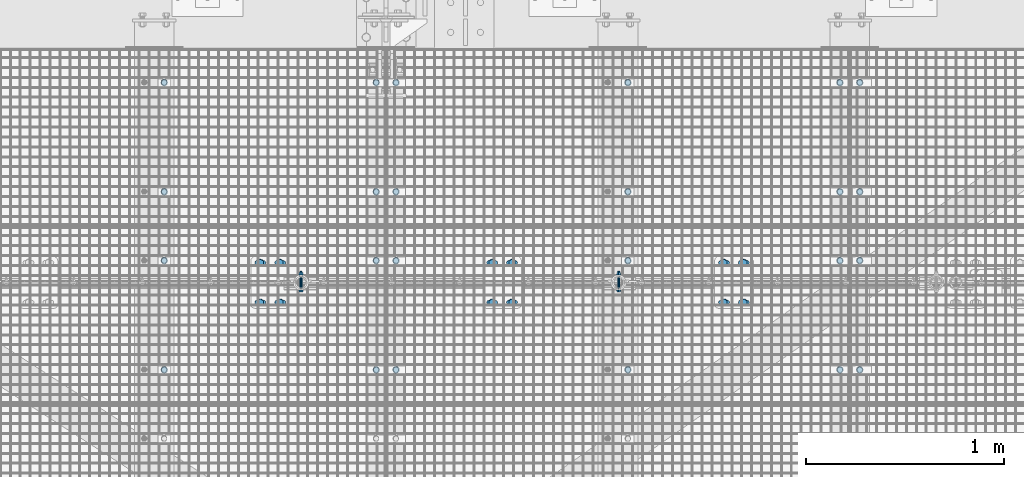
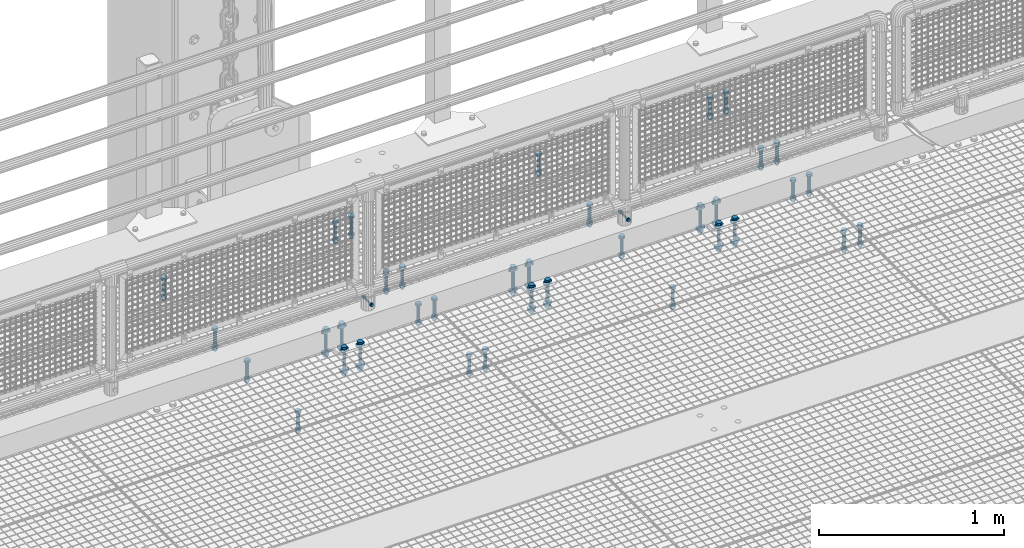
# One storey, part 44 of 1530: 17 mechanical fasteners.
"""IFC2X3 building model written with IfcOpenShell, lengths in millimetres."""

import ifcopenshell
import ifcopenshell.guid

model = None  # the IFC model being written
_history = None  # IfcOwnerHistory: only IFC2X3 demands one
_inside = {}  # id of a spatial element -> (the spatial element, [elements in it])
_under = {}  # id of a project, library or spatial element -> (it, [spatial elements below it])
_declared = {}  # id of a project -> (the project, [libraries it declares])
_typed = {}  # id of a type object -> (the type object, [elements of that type])
_made_of = {}  # id of a material, layer set ... -> (it, [elements and type objects made of it])


def new_model(schema):
    """Start an empty IFC model of exactly this schema.

    Asked for "IFC4X3", IfcOpenShell would pick the latest addendum, in which some entities
    have other attributes; the version numbers below select the first issue.
    IFC2X3 requires an IfcOwnerHistory on every rooted entity: one is made here for all.
    """
    global model, _history
    if schema == "IFC4X3":
        model = ifcopenshell.file(schema_version=(4, 3, 0, 0))
    else:
        model = ifcopenshell.file(schema=schema)
    _inside.clear()
    _under.clear()
    _declared.clear()
    _typed.clear()
    _made_of.clear()
    _history = None
    if model.schema == "IFC2X3":
        org = make("IfcOrganization", Name="unknown")
        user = make(
            "IfcPersonAndOrganization",
            ThePerson=make("IfcPerson", FamilyName="unknown"),
            TheOrganization=org,
        )
        app = make(
            "IfcApplication",
            ApplicationDeveloper=org,
            Version="unknown",
            ApplicationFullName="unknown",
            ApplicationIdentifier="unknown",
        )
        _history = make(
            "IfcOwnerHistory",
            OwningUser=user,
            OwningApplication=app,
            ChangeAction="ADDED",
            CreationDate=0,
        )
    return model


def make(cls, **values):
    """One entity of the class cls with the attributes given. An attribute that is None is left unset."""
    return model.create_entity(
        cls, **{name: value for name, value in values.items() if value is not None}
    )


def rooted(cls, **values):
    """An entity with a GlobalId (a new one), such as an element, a storey or a relation."""
    return make(cls, GlobalId=ifcopenshell.guid.new(), OwnerHistory=_history, **values)


def si_unit(unit_type, name, prefix=None):
    """IfcSIUnit, for example si_unit("LENGTHUNIT", "METRE", prefix="MILLI")."""
    return make("IfcSIUnit", UnitType=unit_type, Prefix=prefix, Name=name)


def assignment(units):
    """IfcUnitAssignment: the units of a project."""
    return None if units is None else make("IfcUnitAssignment", Units=units)


def point(xyz):
    """IfcCartesianPoint."""
    return None if xyz is None else make("IfcCartesianPoint", Coordinates=xyz)


def direction(xyz):
    """IfcDirection."""
    return None if xyz is None else make("IfcDirection", DirectionRatios=xyz)


def frame(location, z_axis=None, x_axis=None):
    """IfcAxis2Placement3D, a coordinate frame: its origin and axes. An axis left out is left unset."""
    return make(
        "IfcAxis2Placement3D",
        Location=point(location),
        Axis=direction(z_axis),
        RefDirection=direction(x_axis),
    )


def origin_with_axes():
    """The frame at (0, 0, 0) with the z axis (0, 0, 1) and the x axis (1, 0, 0) written out."""
    return frame((0.0, 0.0, 0.0), z_axis=(0.0, 0.0, 1.0), x_axis=(1.0, 0.0, 0.0))


def place(relative_to, where):
    """IfcLocalPlacement: puts the frame where relative to a parent placement (None: the world)."""
    return make(
        "IfcLocalPlacement", PlacementRelTo=relative_to, RelativePlacement=where
    )


def context(
    kind, dimensions, precision=None, world=None, true_north=None, identifier=None
):
    """IfcGeometricRepresentationContext, for example the 3D "Model" context."""
    return make(
        "IfcGeometricRepresentationContext",
        ContextIdentifier=identifier,
        ContextType=kind,
        CoordinateSpaceDimension=dimensions,
        Precision=precision,
        WorldCoordinateSystem=world,
        TrueNorth=true_north,
    )


def subcontext(parent, identifier, kind, view, scale=None):
    """IfcGeometricRepresentationSubContext, for example "Body" below "Model"."""
    return make(
        "IfcGeometricRepresentationSubContext",
        ContextIdentifier=identifier,
        ContextType=kind,
        ParentContext=parent,
        TargetScale=scale,
        TargetView=view,
    )


def project(units=None, contexts=None):
    """IfcProject with its units and contexts."""
    return rooted(
        "IfcProject",
        Name="project",
        RepresentationContexts=contexts,
        UnitsInContext=assignment(units),
    )


def spatial(cls, under=None, at=None, **own):
    """A site, building, storey or space (cls), placed at a placement, below another one or the project."""
    s = rooted(cls, ObjectPlacement=at, **own)
    if under is not None:
        _under.setdefault(under.id(), (under, []))[1].append(s)
    return s


def faces_of(points, faces, orient=None, outer=None):
    """IfcFace entities. A face is a list of loops; a loop is a list of indices into points, from 0.

    orient and outer hold one flag for each loop. By default every Orientation is true, the
    first loop of a face is its IfcFaceOuterBound and the others are IfcFaceBound.
    """
    made = []
    for i, loops in enumerate(faces):
        bounds = []
        for j, loop in enumerate(loops):
            is_outer = j == 0 if outer is None else outer[i][j]
            bounds.append(
                make(
                    "IfcFaceOuterBound" if is_outer else "IfcFaceBound",
                    Bound=make("IfcPolyLoop", Polygon=[points[k] for k in loop]),
                    Orientation=True if orient is None else orient[i][j],
                )
            )
        made.append(make("IfcFace", Bounds=bounds))
    return made


def faceted_brep(points, faces, orient=None, outer=None, voids=None):
    """IfcFacetedBrep: a solid bounded by flat faces; with voids (closed shells), ...WithVoids."""
    shared = [point(p) for p in points]
    hull = make("IfcClosedShell", CfsFaces=faces_of(shared, faces, orient, outer))
    if voids is None:
        return make("IfcFacetedBrep", Outer=hull)
    return make(
        "IfcFacetedBrepWithVoids",
        Outer=hull,
        Voids=[
            make(cls, CfsFaces=faces_of(shared, fs, o, b)) for cls, fs, o, b in voids
        ],
    )


def shape(context_of_items, identifier, shape_type, items):
    """IfcShapeRepresentation: the items that make up one representation, for example the "Body"."""
    return make(
        "IfcShapeRepresentation",
        ContextOfItems=context_of_items,
        RepresentationIdentifier=identifier,
        RepresentationType=shape_type,
        Items=items,
    )


def source(mapping_origin, context_of_items, identifier, shape_type, items):
    """IfcRepresentationMap: a shape defined once, which mapped items show again and again."""
    return make(
        "IfcRepresentationMap",
        MappingOrigin=mapping_origin,
        MappedRepresentation=shape(context_of_items, identifier, shape_type, items),
    )


def transform(
    local_origin,
    x_axis=None,
    y_axis=None,
    z_axis=None,
    scale=None,
    scale2=None,
    scale3=None,
    uniform=True,
):
    """IfcCartesianTransformationOperator3D, or its non-uniform kind. x_axis, y_axis, z_axis: its Axis1, 2, 3."""
    if uniform:
        return make(
            "IfcCartesianTransformationOperator3D",
            Axis1=direction(x_axis),
            Axis2=direction(y_axis),
            LocalOrigin=point(local_origin),
            Scale=scale,
            Axis3=direction(z_axis),
        )
    return make(
        "IfcCartesianTransformationOperator3DnonUniform",
        Axis1=direction(x_axis),
        Axis2=direction(y_axis),
        LocalOrigin=point(local_origin),
        Scale=scale,
        Axis3=direction(z_axis),
        Scale2=scale2,
        Scale3=scale3,
    )


def mapped(mapping_source, mapping_target):
    """IfcMappedItem: shows the shape of a source again, moved by a transform."""
    return make(
        "IfcMappedItem", MappingSource=mapping_source, MappingTarget=mapping_target
    )


def material(Name=None, Category=None):
    """IfcMaterial."""
    return make("IfcMaterial", Name=Name, Category=Category)


def made_of(thing, what):
    """Note that an element or type object is made of a material, layer set ...; save() writes the relation."""
    if what is not None:
        _made_of.setdefault(what.id(), (what, []))[1].append(thing)
    return thing


def type_object(cls, material=None, **own):
    """A type object (cls), such as IfcWallType, which elements share."""
    return made_of(rooted(cls, **own), material)


def element(
    cls,
    number,
    at=None,
    inside=None,
    cuts=None,
    type_object=None,
    material=None,
    context=None,
    identifier="Body",
    shape_type=None,
    held_by="IfcProductDefinitionShape",
    body=None,
    shapes=None,
    **own,
):
    """One element of the class cls, such as IfcWall. Its Tag is "e" and its number.

    at: its placement. inside: the storey or other place that contains it. cuts: it is an
    opening in that element (IfcRelVoidsElement). A single representation is given by context,
    identifier, shape_type and body (its items); several are given by shapes. held_by: the class
    of the entity that holds the representations. save() writes the other relations.
    """
    e = rooted(cls, Tag="e%d" % number, ObjectPlacement=at, **own)
    if body is not None:
        shapes = [shape(context, identifier, shape_type, body)]
    if shapes is not None:
        e.Representation = make(held_by, Representations=shapes)
    if inside is not None:
        _inside.setdefault(inside.id(), (inside, []))[1].append(e)
    if cuts is not None:
        rooted(
            "IfcRelVoidsElement", RelatingBuildingElement=cuts, RelatedOpeningElement=e
        )
    if type_object is not None:
        _typed.setdefault(type_object.id(), (type_object, []))[1].append(e)
    return made_of(e, material)


def aggregate(whole, parts):
    """IfcRelAggregates: a whole, such as a stair, and the parts it consists of."""
    return rooted("IfcRelAggregates", RelatingObject=whole, RelatedObjects=parts)


def save(model, path):
    """Write the relations noted so far, then the file.

    IfcRelAggregates (storeys below a building ...), IfcRelContainedInSpatialStructure (elements
    in a storey), IfcRelDefinesByType, IfcRelAssociatesMaterial and IfcRelDeclares: one each for
    every whole, place, type object, material and project.
    """
    for whole, parts in _under.values():
        aggregate(whole, parts)
    for where, things in _inside.values():
        rooted(
            "IfcRelContainedInSpatialStructure",
            RelatedElements=things,
            RelatingStructure=where,
        )
    for kind, things in _typed.values():
        rooted("IfcRelDefinesByType", RelatedObjects=things, RelatingType=kind)
    for what, things in _made_of.values():
        rooted("IfcRelAssociatesMaterial", RelatedObjects=things, RelatingMaterial=what)
    for by, libraries in _declared.values():
        rooted("IfcRelDeclares", RelatingContext=by, RelatedDefinitions=libraries)
    model.write(path)


model = new_model("IFC2X3")

# Units and contexts
model_context = context("Model", 3, precision=1e-05, world=origin_with_axes())
body_context = subcontext(model_context, "Body", "Model", "MODEL_VIEW")
ifc_project = project(units=[si_unit("LENGTHUNIT", "METRE", prefix="MILLI"), si_unit("AREAUNIT", "SQUARE_METRE"), si_unit("VOLUMEUNIT", "CUBIC_METRE"), si_unit("MASSUNIT", "GRAM", prefix="KILO"), si_unit("TIMEUNIT", "SECOND"), si_unit("PLANEANGLEUNIT", "RADIAN"), si_unit("SOLIDANGLEUNIT", "STERADIAN"), si_unit("THERMODYNAMICTEMPERATUREUNIT", "DEGREE_CELSIUS"), si_unit("LUMINOUSINTENSITYUNIT", "LUMEN")], contexts=[model_context])

# Site, building, storey
site_placement = place(None, origin_with_axes())
site = spatial("IfcSite", under=ifc_project, at=site_placement, Name="Brattvåg", CompositionType="ELEMENT")
building_placement = place(site_placement, origin_with_axes())
building = spatial("IfcBuilding", under=site, at=building_placement, Name="Undefined", CompositionType="ELEMENT")
storey_placement = place(building_placement, origin_with_axes())
storey = spatial("IfcBuildingStorey", under=building, at=storey_placement, Name="Undefined", CompositionType="ELEMENT", Elevation=0.0)

# Mechanical fasteners
ifc_material = material(Name="8")
mechanical_fastener_type = type_object("IfcMechanicalFastenerType", Name="Bolt assembly")
shared_shape_1 = source(origin_with_axes(), body_context, "Body", "Brep", [
    faceted_brep([(17.3205080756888, -10.5, 0.0), (8.66025403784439, -10.5, 15.0), (-8.66025403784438, -10.5, 15.0), (-17.3205080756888, -10.5, 2.12115047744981e-15), (-8.66025403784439, -10.5, -15.0), (8.66025403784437, -10.5, -15.0), (8.66025403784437, 2.0, -15.0), (-8.66025403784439, 2.0, -15.0), (-17.3205080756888, 2.0, 2.12115047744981e-15), (-8.66025403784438, 2.0, 15.0), (8.66025403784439, 2.0, 15.0), (17.3205080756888, 2.0, 0.0), (10.0, 2.0, 0.0), (8.66025403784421, 2.0, 5.0000000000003), (4.9999999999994, 2.0, 8.66025403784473), (-1.03633598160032e-12, 2.0, 10.0), (-5.00000000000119, 2.0, 8.6602540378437), (-8.66025403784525, 2.0, 4.99999999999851), (-10.0, 2.0, -2.07267196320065e-12), (-8.66025403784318, 2.0, -5.00000000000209), (-4.99999999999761, 2.0, -8.66025403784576), (3.09790571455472e-12, 2.0, -10.0), (5.00000000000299, 2.0, -8.66025403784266), (8.66025403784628, 2.0, -4.99999999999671), (8.66025403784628, 142.0, -4.99999999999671), (5.00000000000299, 142.0, -8.66025403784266), (3.09790571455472e-12, 142.0, -10.0), (-4.99999999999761, 142.0, -8.66025403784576), (-8.66025403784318, 142.0, -5.00000000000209), (-10.0, 142.0, -2.07267196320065e-12), (-8.66025403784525, 142.0, 4.99999999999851), (-5.00000000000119, 142.0, 8.6602540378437), (-1.03633598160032e-12, 142.0, 10.0), (4.9999999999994, 142.0, 8.66025403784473), (8.66025403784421, 142.0, 5.0000000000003), (10.0, 142.0, 0.0), (18.5, 2.0, 0.0), (16.0214699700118, 2.0, 9.25000000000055), (9.2499999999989, 2.0, 16.0214699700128), (-1.9172215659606e-12, 2.0, 18.5), (-9.25000000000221, 2.0, 16.0214699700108), (-16.0214699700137, 2.0, 9.24999999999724), (-18.5, 2.0, -3.83444313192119e-12), (-16.0214699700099, 2.0, -9.25000000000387), (-9.24999999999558, 2.0, -16.0214699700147), (5.73112557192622e-12, 2.0, -18.5), (9.25000000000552, 2.0, -16.0214699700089), (16.0214699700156, 2.0, -9.24999999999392), (16.0214699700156, 5.0, -9.24999999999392), (9.25000000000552, 5.0, -16.0214699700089), (5.73112557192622e-12, 5.0, -18.5), (-9.24999999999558, 5.0, -16.0214699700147), (-16.0214699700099, 5.0, -9.25000000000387), (-18.5, 5.0, -3.83444313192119e-12), (-16.0214699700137, 5.0, 9.24999999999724), (-9.25000000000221, 5.0, 16.0214699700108), (-1.9172215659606e-12, 5.0, 18.5), (9.2499999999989, 5.0, 16.0214699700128), (16.0214699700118, 5.0, 9.25000000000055), (18.5, 5.0, 0.0), (18.5, 109.998931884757, 0.0), (16.0214699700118, 109.998931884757, 9.25000000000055), (9.2499999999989, 109.998931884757, 16.0214699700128), (-1.9172215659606e-12, 109.998931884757, 18.5), (-9.25000000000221, 109.998931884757, 16.0214699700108), (-16.0214699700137, 109.998931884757, 9.24999999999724), (-18.5, 109.998931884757, -3.83444313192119e-12), (-16.0214699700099, 109.998931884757, -9.25000000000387), (-9.24999999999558, 109.998931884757, -16.0214699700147), (5.73112557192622e-12, 109.998931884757, -18.5), (9.25000000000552, 109.998931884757, -16.0214699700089), (16.0214699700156, 109.998931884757, -9.24999999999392), (16.0214699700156, 112.998931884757, -9.24999999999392), (9.25000000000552, 112.998931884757, -16.0214699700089), (5.73112557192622e-12, 112.998931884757, -18.5), (-9.24999999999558, 112.998931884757, -16.0214699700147), (-16.0214699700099, 112.998931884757, -9.25000000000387), (-18.5, 112.998931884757, -3.83444313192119e-12), (-16.0214699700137, 112.998931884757, 9.24999999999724), (-9.25000000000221, 112.998931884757, 16.0214699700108), (-1.9172215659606e-12, 112.998931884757, 18.5), (9.2499999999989, 112.998931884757, 16.0214699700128), (16.0214699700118, 112.998931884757, 9.25000000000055), (18.5, 112.998931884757, 0.0), (17.3205080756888, 112.998931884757, 0.0), (8.66025403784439, 112.998931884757, 15.0), (-8.66025403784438, 112.998931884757, 15.0), (-17.3205080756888, 112.998931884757, 2.12115047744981e-15), (-8.66025403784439, 112.998931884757, -15.0), (8.66025403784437, 112.998931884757, -15.0), (8.66025403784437, 130.998931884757, -15.0), (-8.66025403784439, 130.998931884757, -15.0), (-17.3205080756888, 130.998931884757, 2.12115047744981e-15), (-8.66025403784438, 130.998931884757, 15.0), (8.66025403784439, 130.998931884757, 15.0), (17.3205080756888, 130.998931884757, 0.0)], [[[0, 1, 2, 3, 4, 5]], [[6, 7, 8, 9, 10, 11]], [[0, 11, 10, 1]], [[1, 10, 9, 2]], [[2, 9, 8, 3]], [[3, 8, 7, 4]], [[4, 7, 6, 5]], [[5, 6, 11, 0]], [[12, 13, 14, 15, 16, 17, 18, 19, 20, 21, 22, 23]], [[24, 25, 26, 27, 28, 29, 30, 31, 32, 33, 34, 35]], [[12, 35, 34, 13]], [[13, 34, 33, 14]], [[14, 33, 32, 15]], [[15, 32, 31, 16]], [[16, 31, 30, 17]], [[17, 30, 29, 18]], [[18, 29, 28, 19]], [[19, 28, 27, 20]], [[20, 27, 26, 21]], [[21, 26, 25, 22]], [[22, 25, 24, 23]], [[23, 24, 35, 12]], [[36, 37, 38, 39, 40, 41, 42, 43, 44, 45, 46, 47]], [[48, 49, 50, 51, 52, 53, 54, 55, 56, 57, 58, 59]], [[36, 59, 58, 37]], [[37, 58, 57, 38]], [[38, 57, 56, 39]], [[39, 56, 55, 40]], [[40, 55, 54, 41]], [[41, 54, 53, 42]], [[42, 53, 52, 43]], [[43, 52, 51, 44]], [[44, 51, 50, 45]], [[45, 50, 49, 46]], [[46, 49, 48, 47]], [[47, 48, 59, 36]], [[60, 61, 62, 63, 64, 65, 66, 67, 68, 69, 70, 71]], [[72, 73, 74, 75, 76, 77, 78, 79, 80, 81, 82, 83]], [[60, 83, 82, 61]], [[61, 82, 81, 62]], [[62, 81, 80, 63]], [[63, 80, 79, 64]], [[64, 79, 78, 65]], [[65, 78, 77, 66]], [[66, 77, 76, 67]], [[67, 76, 75, 68]], [[68, 75, 74, 69]], [[69, 74, 73, 70]], [[70, 73, 72, 71]], [[71, 72, 83, 60]], [[84, 85, 86, 87, 88, 89]], [[90, 91, 92, 93, 94, 95]], [[84, 95, 94, 85]], [[85, 94, 93, 86]], [[86, 93, 92, 87]], [[87, 92, 91, 88]], [[88, 91, 90, 89]], [[89, 90, 95, 84]]]),
])
for number, where, z_axis, x_axis, name in (
    (1, (14636.0047793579, 8121.91931152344, -25.0), (-1.0, 1.99999855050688e-09, 0.0), (0.0, 1.0, 0.0), "Bolt assembly"),
    (2, (14636.0047793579, 7224.91931152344, -25.0), (-1.0, 1.99999855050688e-09, 0.0), (0.0, 1.0, 0.0), "Bolt assembly"),
    (3, (14536.0148773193, 8121.9204864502, -25.0), (-1.0, 1.99999855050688e-09, 0.0), (0.0, 1.0, 0.0), "Bolt assembly"),
    (4, (13468.0119254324, 8121.99, -25.0), (-1.0, 1.99999855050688e-09, 0.0), (0.0, 1.0, 0.0), "Bolt assembly"),
    (5, (12300.0047793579, 8121.91931152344, -25.0), (-1.0, 1.99999855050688e-09, 0.0), (0.0, 1.0, 0.0), "Bolt assembly"),
    (6, (12200.0148773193, 8121.9204864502, -25.0), (-1.0, 1.99999855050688e-09, 0.0), (0.0, 1.0, 0.0), "Bolt assembly"),
    (7, (11132.0119254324, 8121.99, -25.0), (-1.0, 1.99999855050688e-09, 0.0), (0.0, 1.0, 0.0), "Bolt assembly"),
    (8, (14536.0148773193, 7224.9204864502, -25.0), (-1.0, 1.99999855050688e-09, 0.0), (0.0, 1.0, 0.0), "Bolt assembly"),
    (9, (13468.0119254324, 7224.99, -25.0), (-1.0, 1.99999855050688e-09, 0.0), (0.0, 1.0, 0.0), "Bolt assembly"),
    (10, (12300.0047793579, 7224.91931152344, -25.0), (-1.0, 1.99999855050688e-09, 0.0), (0.0, 1.0, 0.0), "Bolt assembly"),
    (11, (12200.0148773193, 7224.9204864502, -25.0), (-1.0, 1.99999855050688e-09, 0.0), (0.0, 1.0, 0.0), "Bolt assembly"),
    (12, (11132.0119254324, 7224.99, -25.0), (-1.0, 1.99999855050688e-09, 0.0), (0.0, 1.0, 0.0), "Bolt assembly"),
):
    element("IfcMechanicalFastener", number, at=place(storey_placement, frame(where, z_axis=z_axis, x_axis=x_axis)), inside=storey, type_object=mechanical_fastener_type, material=ifc_material, Name=name, NominalDiameter=20.0, NominalLength=140.0, context=body_context, shape_type="MappedRepresentation", body=[
        mapped(shared_shape_1, transform((0.0, 0.0, 0.0))),
        mapped(shared_shape_1, transform((549.999999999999, 0.0, 0.0))),
    ])
shared_shape_2 = source(origin_with_axes(), body_context, "Body", "Brep", [
    faceted_brep([(17.3205080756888, -15.5000000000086, 0.0), (8.66025403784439, -15.5000000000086, 15.0), (-8.66025403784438, -15.5000000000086, 15.0), (-17.3205080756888, -15.5000000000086, 2.12115047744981e-15), (-8.66025403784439, -15.5000000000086, -15.0), (8.66025403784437, -15.5000000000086, -15.0), (8.66025403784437, -3.00000000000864, -15.0), (-8.66025403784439, -3.00000000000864, -15.0), (-17.3205080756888, -3.00000000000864, 2.12115047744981e-15), (-8.66025403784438, -3.00000000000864, 15.0), (8.66025403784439, -3.00000000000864, 15.0), (17.3205080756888, -3.00000000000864, 0.0), (10.0, -3.00000000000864, 0.0), (8.66025403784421, -3.00000000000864, 5.0000000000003), (4.9999999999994, -3.00000000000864, 8.66025403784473), (-1.03633598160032e-12, -3.00000000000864, 10.0), (-5.00000000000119, -3.00000000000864, 8.6602540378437), (-8.66025403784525, -3.00000000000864, 4.99999999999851), (-10.0, -3.00000000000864, -2.07267196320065e-12), (-8.66025403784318, -3.00000000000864, -5.00000000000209), (-4.99999999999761, -3.00000000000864, -8.66025403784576), (3.09790571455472e-12, -3.00000000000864, -10.0), (5.00000000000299, -3.00000000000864, -8.66025403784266), (8.66025403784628, -3.00000000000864, -4.99999999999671), (8.66025403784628, 176.999999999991, -4.99999999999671), (5.00000000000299, 176.999999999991, -8.66025403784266), (3.09790571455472e-12, 176.999999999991, -10.0), (-4.99999999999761, 176.999999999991, -8.66025403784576), (-8.66025403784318, 176.999999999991, -5.00000000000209), (-10.0, 176.999999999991, -2.07267196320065e-12), (-8.66025403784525, 176.999999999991, 4.99999999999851), (-5.00000000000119, 176.999999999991, 8.6602540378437), (-1.03633598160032e-12, 176.999999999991, 10.0), (4.9999999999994, 176.999999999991, 8.66025403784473), (8.66025403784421, 176.999999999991, 5.0000000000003), (10.0, 176.999999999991, 0.0), (18.5, -3.00000000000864, 0.0), (16.0214699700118, -3.00000000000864, 9.25000000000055), (9.2499999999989, -3.00000000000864, 16.0214699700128), (-1.9172215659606e-12, -3.00000000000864, 18.5), (-9.25000000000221, -3.00000000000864, 16.0214699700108), (-16.0214699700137, -3.00000000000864, 9.24999999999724), (-18.5, -3.00000000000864, -3.83444313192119e-12), (-16.0214699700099, -3.00000000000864, -9.25000000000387), (-9.24999999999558, -3.00000000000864, -16.0214699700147), (5.73112557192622e-12, -3.00000000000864, -18.5), (9.25000000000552, -3.00000000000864, -16.0214699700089), (16.0214699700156, -3.00000000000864, -9.24999999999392), (16.0214699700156, -8.64019966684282e-12, -9.24999999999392), (9.25000000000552, -8.64019966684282e-12, -16.0214699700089), (5.73112557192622e-12, -8.64019966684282e-12, -18.5), (-9.24999999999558, -8.64019966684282e-12, -16.0214699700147), (-16.0214699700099, -8.64019966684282e-12, -9.25000000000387), (-18.5, -8.64019966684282e-12, -3.83444313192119e-12), (-16.0214699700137, -8.64019966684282e-12, 9.24999999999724), (-9.25000000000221, -8.64019966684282e-12, 16.0214699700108), (-1.9172215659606e-12, -8.64019966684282e-12, 18.5), (9.2499999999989, -8.64019966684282e-12, 16.0214699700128), (16.0214699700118, -8.64019966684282e-12, 9.25000000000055), (18.5, -8.64019966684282e-12, 0.0), (18.5, 149.999999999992, 0.0), (16.0214699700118, 149.999999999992, 9.25000000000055), (9.2499999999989, 149.999999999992, 16.0214699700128), (-1.9172215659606e-12, 149.999999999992, 18.5), (-9.25000000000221, 149.999999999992, 16.0214699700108), (-16.0214699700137, 149.999999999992, 9.24999999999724), (-18.5, 149.999999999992, -3.83444313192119e-12), (-16.0214699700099, 149.999999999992, -9.25000000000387), (-9.24999999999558, 149.999999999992, -16.0214699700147), (5.73112557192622e-12, 149.999999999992, -18.5), (9.25000000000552, 149.999999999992, -16.0214699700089), (16.0214699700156, 149.999999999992, -9.24999999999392), (16.0214699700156, 152.999999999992, -9.24999999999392), (9.25000000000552, 152.999999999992, -16.0214699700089), (5.73112557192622e-12, 152.999999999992, -18.5), (-9.24999999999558, 152.999999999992, -16.0214699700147), (-16.0214699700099, 152.999999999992, -9.25000000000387), (-18.5, 152.999999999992, -3.83444313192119e-12), (-16.0214699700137, 152.999999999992, 9.24999999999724), (-9.25000000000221, 152.999999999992, 16.0214699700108), (-1.9172215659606e-12, 152.999999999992, 18.5), (9.2499999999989, 152.999999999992, 16.0214699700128), (16.0214699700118, 152.999999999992, 9.25000000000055), (18.5, 152.999999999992, 0.0), (17.3205080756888, 152.999999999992, 0.0), (8.66025403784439, 152.999999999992, 15.0), (-8.66025403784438, 152.999999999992, 15.0), (-17.3205080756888, 152.999999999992, 2.12115047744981e-15), (-8.66025403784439, 152.999999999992, -15.0), (8.66025403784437, 152.999999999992, -15.0), (8.66025403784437, 170.999999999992, -15.0), (-8.66025403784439, 170.999999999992, -15.0), (-17.3205080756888, 170.999999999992, 2.12115047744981e-15), (-8.66025403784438, 170.999999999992, 15.0), (8.66025403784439, 170.999999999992, 15.0), (17.3205080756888, 170.999999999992, 0.0)], [[[0, 1, 2, 3, 4, 5]], [[6, 7, 8, 9, 10, 11]], [[0, 11, 10, 1]], [[1, 10, 9, 2]], [[2, 9, 8, 3]], [[3, 8, 7, 4]], [[4, 7, 6, 5]], [[5, 6, 11, 0]], [[12, 13, 14, 15, 16, 17, 18, 19, 20, 21, 22, 23]], [[24, 25, 26, 27, 28, 29, 30, 31, 32, 33, 34, 35]], [[12, 35, 34, 13]], [[13, 34, 33, 14]], [[14, 33, 32, 15]], [[15, 32, 31, 16]], [[16, 31, 30, 17]], [[17, 30, 29, 18]], [[18, 29, 28, 19]], [[19, 28, 27, 20]], [[20, 27, 26, 21]], [[21, 26, 25, 22]], [[22, 25, 24, 23]], [[23, 24, 35, 12]], [[36, 37, 38, 39, 40, 41, 42, 43, 44, 45, 46, 47]], [[48, 49, 50, 51, 52, 53, 54, 55, 56, 57, 58, 59]], [[36, 59, 58, 37]], [[37, 58, 57, 38]], [[38, 57, 56, 39]], [[39, 56, 55, 40]], [[40, 55, 54, 41]], [[41, 54, 53, 42]], [[42, 53, 52, 43]], [[43, 52, 51, 44]], [[44, 51, 50, 45]], [[45, 50, 49, 46]], [[46, 49, 48, 47]], [[47, 48, 59, 36]], [[60, 61, 62, 63, 64, 65, 66, 67, 68, 69, 70, 71]], [[72, 73, 74, 75, 76, 77, 78, 79, 80, 81, 82, 83]], [[60, 83, 82, 61]], [[61, 82, 81, 62]], [[62, 81, 80, 63]], [[63, 80, 79, 64]], [[64, 79, 78, 65]], [[65, 78, 77, 66]], [[66, 77, 76, 67]], [[67, 76, 75, 68]], [[68, 75, 74, 69]], [[69, 74, 73, 70]], [[70, 73, 72, 71]], [[71, 72, 83, 60]], [[84, 85, 86, 87, 88, 89]], [[90, 91, 92, 93, 94, 95]], [[84, 95, 94, 85]], [[85, 94, 93, 86]], [[86, 93, 92, 87]], [[87, 92, 91, 88]], [[88, 91, 90, 89]], [[89, 90, 95, 84]]]),
    faceted_brep([(11.0, 0.0999999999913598, 16.5), (10.162674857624, 0.0999999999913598, 20.7095177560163), (7.77817459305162, 0.0999999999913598, 24.2781745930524), (-1.13996957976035e-12, 0.0999999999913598, 27.5), (-5.50000000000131, 0.0999999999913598, 26.0262794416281), (-9.52627944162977, 0.0999999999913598, 21.9999999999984), (-11.0, 0.0999999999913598, 16.4999999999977), (-11.0, 0.0999999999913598, -16.5000000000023), (-9.5262794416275, 0.0999999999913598, -22.0000000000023), (-5.49999999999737, 0.0999999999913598, -26.0262794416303), (3.40769628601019e-12, 0.0999999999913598, -27.5), (5.50000000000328, 0.0999999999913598, -26.0262794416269), (9.52627944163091, 0.0999999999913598, -21.9999999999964), (11.0, 0.0999999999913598, -16.4999999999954), (11.0, 15.0999999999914, -16.4999999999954), (9.52627944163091, 15.0999999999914, -21.9999999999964), (5.50000000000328, 15.0999999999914, -26.0262794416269), (3.40769628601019e-12, 15.0999999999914, -27.5), (-5.49999999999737, 15.0999999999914, -26.0262794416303), (-9.5262794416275, 15.0999999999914, -22.0000000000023), (-11.0, 15.0999999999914, -16.5000000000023), (-11.0, 15.0999999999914, 16.4999999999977), (-9.52627944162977, 15.0999999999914, 21.9999999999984), (-5.50000000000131, 15.0999999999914, 26.0262794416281), (-1.13996957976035e-12, 15.0999999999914, 27.5), (4.2095177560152, 15.0999999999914, 26.6626748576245), (7.77817459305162, 15.0999999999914, 24.2781745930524), (10.162674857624, 15.0999999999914, 20.7095177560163), (11.0, 15.0999999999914, 16.5), (4.2095177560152, 0.0999999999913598, 26.6626748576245), (11.0, 134.899999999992, 16.5), (10.162674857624, 134.899999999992, 20.7095177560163), (7.77817459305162, 134.899999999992, 24.2781745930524), (-1.13996957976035e-12, 134.899999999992, 27.5), (-5.50000000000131, 134.899999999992, 26.0262794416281), (-9.52627944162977, 134.899999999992, 21.9999999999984), (-11.0, 134.899999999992, 16.4999999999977), (-11.0, 134.899999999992, -16.5000000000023), (-9.5262794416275, 134.899999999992, -22.0000000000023), (-5.49999999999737, 134.899999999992, -26.0262794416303), (3.40769628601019e-12, 134.899999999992, -27.5), (5.50000000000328, 134.899999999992, -26.0262794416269), (9.52627944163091, 134.899999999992, -21.9999999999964), (11.0, 134.899999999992, -16.4999999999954), (11.0, 149.999999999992, -16.4999999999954), (9.52627944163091, 149.999999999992, -21.9999999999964), (5.50000000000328, 149.999999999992, -26.0262794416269), (3.40769628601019e-12, 149.999999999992, -27.5), (-5.49999999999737, 149.999999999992, -26.0262794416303), (-9.5262794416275, 149.999999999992, -22.0000000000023), (-11.0, 149.999999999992, -16.5000000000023), (-11.0, 149.999999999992, 16.4999999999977), (-9.52627944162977, 149.999999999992, 21.9999999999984), (-5.50000000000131, 149.999999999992, 26.0262794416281), (-1.13996957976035e-12, 149.999999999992, 27.5), (4.2095177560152, 149.999999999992, 26.6626748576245), (7.77817459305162, 149.999999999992, 24.2781745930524), (10.162674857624, 149.999999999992, 20.7095177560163), (11.0, 149.999999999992, 16.5), (4.2095177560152, 134.899999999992, 26.6626748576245)], [[[0, 1, 2, 3, 4, 5, 6, 7, 8, 9, 10, 11, 12, 13]], [[14, 15, 16, 17, 18, 19, 20, 21, 22, 23, 24, 25, 26, 27, 28]], [[0, 28, 27, 1]], [[1, 27, 26, 2]], [[2, 26, 25, 29]], [[29, 25, 24, 3]], [[3, 24, 23, 4]], [[4, 23, 22, 5]], [[5, 22, 21, 6]], [[6, 21, 20, 7]], [[7, 20, 19, 8]], [[8, 19, 18, 9]], [[9, 18, 17, 10]], [[10, 17, 16, 11]], [[11, 16, 15, 12]], [[12, 15, 14, 13]], [[13, 14, 28, 0]], [[30, 31, 32, 33, 34, 35, 36, 37, 38, 39, 40, 41, 42, 43]], [[44, 45, 46, 47, 48, 49, 50, 51, 52, 53, 54, 55, 56, 57, 58]], [[30, 58, 57, 31]], [[31, 57, 56, 32]], [[32, 56, 55, 59]], [[59, 55, 54, 33]], [[33, 54, 53, 34]], [[34, 53, 52, 35]], [[35, 52, 51, 36]], [[36, 51, 50, 37]], [[37, 50, 49, 38]], [[38, 49, 48, 39]], [[39, 48, 47, 40]], [[40, 47, 46, 41]], [[41, 46, 45, 42]], [[42, 45, 44, 43]], [[43, 44, 58, 30]]]),
])
for number, where, z_axis, x_axis, name in (
    (13, (11665.9996795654, 7564.4994392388, 15.0000839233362), (-1.0, 1.99999855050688e-09, 0.0), (0.0, 1.0, 0.0), "Bolt assembly"),
    (14, (12833.9996795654, 7564.4994392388, 15.0000839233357), (-1.0, 1.99999855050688e-09, 0.0), (0.0, 1.0, 0.0), "Bolt assembly"),
    (15, (14001.9996795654, 7564.4994392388, 15.0000839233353), (-1.0, 1.99999855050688e-09, 0.0), (0.0, 1.0, 0.0), "Bolt assembly"),
):
    element("IfcMechanicalFastener", number, at=place(storey_placement, frame(where, z_axis=z_axis, x_axis=x_axis)), inside=storey, type_object=mechanical_fastener_type, material=ifc_material, Name=name, NominalDiameter=20.0, NominalLength=180.0, context=body_context, shape_type="MappedRepresentation", body=[
        mapped(shared_shape_2, transform((0.0, 0.0, -50.0))),
        mapped(shared_shape_2, transform((200.0, 0.0, -50.0))),
        mapped(shared_shape_2, transform((0.0, 0.0, 50.0))),
        mapped(shared_shape_2, transform((200.0, 0.0, 50.0))),
    ])
shared_shape_3 = source(origin_with_axes(), body_context, "Body", "Brep", [
    faceted_brep([(10.3923048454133, -9.99524588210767, 0.0), (5.19615242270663, -9.99524588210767, 9.0), (-5.19615242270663, -9.99524588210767, 9.0), (-10.3923048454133, -9.99524588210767, 1.27269028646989e-15), (-5.19615242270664, -9.99524588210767, -9.0), (5.19615242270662, -9.99524588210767, -9.0), (5.19615242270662, -2.49524588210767, -9.0), (-5.19615242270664, -2.49524588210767, -9.0), (-10.3923048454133, -2.49524588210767, 1.27269028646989e-15), (-5.19615242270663, -2.49524588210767, 9.0), (5.19615242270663, -2.49524588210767, 9.0), (10.3923048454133, -2.49524588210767, 0.0), (6.0, -2.49524588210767, 0.0), (5.19615242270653, -2.49524588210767, 3.00000000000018), (2.99999999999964, -2.49524588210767, 5.19615242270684), (-6.21801588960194e-13, -2.49524588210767, 6.0), (-3.00000000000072, -2.49524588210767, 5.19615242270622), (-5.19615242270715, -2.49524588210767, 2.9999999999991), (-6.0, -2.49524588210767, -1.24360317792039e-12), (-5.19615242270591, -2.49524588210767, -3.00000000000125), (-2.99999999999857, -2.49524588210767, -5.19615242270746), (1.85874342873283e-12, -2.49524588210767, -6.0), (3.00000000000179, -2.49524588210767, -5.1961524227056), (5.19615242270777, -2.49524588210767, -2.99999999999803), (5.19615242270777, 97.5047541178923, -2.99999999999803), (3.00000000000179, 97.5047541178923, -5.1961524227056), (1.85874342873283e-12, 97.5047541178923, -6.0), (-2.99999999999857, 97.5047541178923, -5.19615242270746), (-5.19615242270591, 97.5047541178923, -3.00000000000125), (-6.0, 97.5047541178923, -1.24360317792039e-12), (-5.19615242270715, 97.5047541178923, 2.9999999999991), (-3.00000000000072, 97.5047541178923, 5.19615242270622), (-6.21801588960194e-13, 97.5047541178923, 6.0), (2.99999999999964, 97.5047541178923, 5.19615242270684), (5.19615242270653, 97.5047541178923, 3.00000000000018), (6.0, 97.5047541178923, 0.0), (12.0, -2.49524588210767, 0.0), (10.3923048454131, -2.49524588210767, 6.00000000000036), (5.99999999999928, -2.49524588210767, 10.3923048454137), (-1.24360317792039e-12, -2.49524588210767, 12.0), (-6.00000000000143, -2.49524588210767, 10.3923048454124), (-10.3923048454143, -2.49524588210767, 5.99999999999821), (-12.0, -2.49524588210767, -2.48720635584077e-12), (-10.3923048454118, -2.49524588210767, -6.00000000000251), (-5.99999999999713, -2.49524588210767, -10.3923048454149), (3.71748685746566e-12, -2.49524588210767, -12.0), (6.00000000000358, -2.49524588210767, -10.3923048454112), (10.3923048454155, -2.49524588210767, -5.99999999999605), (10.3923048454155, 0.00475411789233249, -5.99999999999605), (6.00000000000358, 0.00475411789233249, -10.3923048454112), (3.71748685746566e-12, 0.00475411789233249, -12.0), (-5.99999999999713, 0.00475411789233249, -10.3923048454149), (-10.3923048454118, 0.00475411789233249, -6.00000000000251), (-12.0, 0.00475411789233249, -2.48720635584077e-12), (-10.3923048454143, 0.00475411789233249, 5.99999999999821), (-6.00000000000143, 0.00475411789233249, 10.3923048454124), (-1.24360317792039e-12, 0.00475411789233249, 12.0), (5.99999999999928, 0.00475411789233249, 10.3923048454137), (10.3923048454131, 0.00475411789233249, 6.00000000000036), (12.0, 0.00475411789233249, 0.0), (12.0, 76.1029826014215, 0.0), (10.3923048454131, 76.1029826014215, 6.00000000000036), (5.99999999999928, 76.1029826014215, 10.3923048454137), (-1.24360317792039e-12, 76.1029826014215, 12.0), (-6.00000000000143, 76.1029826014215, 10.3923048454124), (-10.3923048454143, 76.1029826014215, 5.99999999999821), (-12.0, 76.1029826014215, -2.48720635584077e-12), (-10.3923048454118, 76.1029826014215, -6.00000000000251), (-5.99999999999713, 76.1029826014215, -10.3923048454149), (3.71748685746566e-12, 76.1029826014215, -12.0), (6.00000000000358, 76.1029826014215, -10.3923048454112), (10.3923048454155, 76.1029826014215, -5.99999999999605), (10.3923048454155, 78.6029826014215, -5.99999999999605), (6.00000000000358, 78.6029826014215, -10.3923048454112), (3.71748685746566e-12, 78.6029826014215, -12.0), (-5.99999999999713, 78.6029826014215, -10.3923048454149), (-10.3923048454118, 78.6029826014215, -6.00000000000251), (-12.0, 78.6029826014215, -2.48720635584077e-12), (-10.3923048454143, 78.6029826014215, 5.99999999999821), (-6.00000000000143, 78.6029826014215, 10.3923048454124), (-1.24360317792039e-12, 78.6029826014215, 12.0), (5.99999999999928, 78.6029826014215, 10.3923048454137), (10.3923048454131, 78.6029826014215, 6.00000000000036), (12.0, 78.6029826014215, 0.0), (10.3923048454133, 78.6029826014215, 0.0), (5.19615242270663, 78.6029826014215, 9.0), (-5.19615242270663, 78.6029826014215, 9.0), (-10.3923048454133, 78.6029826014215, 1.27269028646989e-15), (-5.19615242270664, 78.6029826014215, -9.0), (5.19615242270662, 78.6029826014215, -9.0), (5.19615242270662, 89.4029827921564, -9.0), (-5.19615242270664, 89.4029827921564, -9.0), (-10.3923048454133, 89.4029827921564, 1.27269028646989e-15), (-5.19615242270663, 89.4029827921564, 9.0), (5.19615242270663, 89.4029827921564, 9.0), (10.3923048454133, 89.4029827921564, 0.0)], [[[0, 1, 2, 3, 4, 5]], [[6, 7, 8, 9, 10, 11]], [[0, 11, 10, 1]], [[1, 10, 9, 2]], [[2, 9, 8, 3]], [[3, 8, 7, 4]], [[4, 7, 6, 5]], [[5, 6, 11, 0]], [[12, 13, 14, 15, 16, 17, 18, 19, 20, 21, 22, 23]], [[24, 25, 26, 27, 28, 29, 30, 31, 32, 33, 34, 35]], [[12, 35, 34, 13]], [[13, 34, 33, 14]], [[14, 33, 32, 15]], [[15, 32, 31, 16]], [[16, 31, 30, 17]], [[17, 30, 29, 18]], [[18, 29, 28, 19]], [[19, 28, 27, 20]], [[20, 27, 26, 21]], [[21, 26, 25, 22]], [[22, 25, 24, 23]], [[23, 24, 35, 12]], [[36, 37, 38, 39, 40, 41, 42, 43, 44, 45, 46, 47]], [[48, 49, 50, 51, 52, 53, 54, 55, 56, 57, 58, 59]], [[36, 59, 58, 37]], [[37, 58, 57, 38]], [[38, 57, 56, 39]], [[39, 56, 55, 40]], [[40, 55, 54, 41]], [[41, 54, 53, 42]], [[42, 53, 52, 43]], [[43, 52, 51, 44]], [[44, 51, 50, 45]], [[45, 50, 49, 46]], [[46, 49, 48, 47]], [[47, 48, 59, 36]], [[60, 61, 62, 63, 64, 65, 66, 67, 68, 69, 70, 71]], [[72, 73, 74, 75, 76, 77, 78, 79, 80, 81, 82, 83]], [[60, 83, 82, 61]], [[61, 82, 81, 62]], [[62, 81, 80, 63]], [[63, 80, 79, 64]], [[64, 79, 78, 65]], [[65, 78, 77, 66]], [[66, 77, 76, 67]], [[67, 76, 75, 68]], [[68, 75, 74, 69]], [[69, 74, 73, 70]], [[70, 73, 72, 71]], [[71, 72, 83, 60]], [[84, 85, 86, 87, 88, 89]], [[90, 91, 92, 93, 94, 95]], [[84, 95, 94, 85]], [[85, 94, 93, 86]], [[86, 93, 92, 87]], [[87, 92, 91, 88]], [[88, 91, 90, 89]], [[89, 90, 95, 84]]]),
    faceted_brep([(6.5, 0.104754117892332, 0.0), (5.62916512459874, 0.104754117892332, 3.25000000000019), (3.24999999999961, 0.104754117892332, 5.62916512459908), (-6.7361838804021e-13, 0.104754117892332, 6.5), (-3.25000000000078, 0.104754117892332, 5.6291651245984), (-5.62916512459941, 0.104754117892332, 3.24999999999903), (-6.5, 0.104754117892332, -1.34723677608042e-12), (-5.62916512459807, 0.104754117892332, -3.25000000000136), (-3.24999999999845, 0.104754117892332, -5.62916512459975), (2.01363871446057e-12, 0.104754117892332, -6.5), (3.25000000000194, 0.104754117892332, -5.62916512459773), (5.62916512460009, 0.104754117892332, -3.24999999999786), (5.62916512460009, 76.2029826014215, -3.24999999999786), (3.25000000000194, 76.2029826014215, -5.62916512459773), (2.01363871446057e-12, 76.2029826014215, -6.5), (-3.24999999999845, 76.2029826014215, -5.62916512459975), (-5.62916512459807, 76.2029826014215, -3.25000000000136), (-6.5, 76.2029826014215, -1.34723677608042e-12), (-5.62916512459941, 76.2029826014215, 3.24999999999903), (-3.25000000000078, 76.2029826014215, 5.6291651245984), (-6.7361838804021e-13, 76.2029826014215, 6.5), (3.24999999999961, 76.2029826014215, 5.62916512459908), (5.62916512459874, 76.2029826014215, 3.25000000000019), (6.5, 76.2029826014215, 0.0), (6.5, 7.80509808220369, 0.0), (5.62916512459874, 7.80509808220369, 3.25000000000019), (3.24999999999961, 7.80509808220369, 5.62916512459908), (-6.7361838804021e-13, 7.80509808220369, 6.5), (-3.25000000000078, 7.80509808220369, 5.6291651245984), (-5.62916512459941, 7.80509808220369, 3.24999999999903), (-6.5, 7.80509808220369, -1.34723677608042e-12), (-5.62916512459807, 7.80509808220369, -3.25000000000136), (-3.24999999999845, 7.80509808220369, -5.62916512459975), (2.01363871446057e-12, 7.80509808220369, -6.5), (3.25000000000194, 7.80509808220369, -5.62916512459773), (5.62916512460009, 7.80509808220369, -3.24999999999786), (5.62916512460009, 68.2033458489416, -3.24999999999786), (3.25000000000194, 68.2033458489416, -5.62916512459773), (2.01363871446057e-12, 68.2033458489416, -6.5), (-3.24999999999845, 68.2033458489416, -5.62916512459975), (-5.62916512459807, 68.2033458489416, -3.25000000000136), (-6.5, 68.2033458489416, -1.34723677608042e-12), (-5.62916512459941, 68.2033458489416, 3.24999999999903), (-3.25000000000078, 68.2033458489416, 5.6291651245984), (-6.7361838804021e-13, 68.2033458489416, 6.5), (3.24999999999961, 68.2033458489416, 5.62916512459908), (5.62916512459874, 68.2033458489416, 3.25000000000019), (6.5, 68.2033458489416, 0.0)], [[[0, 1, 2, 3, 4, 5, 6, 7, 8, 9, 10, 11]], [[12, 13, 14, 15, 16, 17, 18, 19, 20, 21, 22, 23]], [[0, 23, 22, 1]], [[1, 22, 21, 2]], [[2, 21, 20, 3]], [[3, 20, 19, 4]], [[4, 19, 18, 5]], [[5, 18, 17, 6]], [[6, 17, 16, 7]], [[7, 16, 15, 8]], [[8, 15, 14, 9]], [[9, 14, 13, 10]], [[10, 13, 12, 11]], [[11, 12, 23, 0]], [[24, 25, 26, 27, 28, 29, 30, 31, 32, 33, 34, 35]], [[36, 37, 38, 39, 40, 41, 42, 43, 44, 45, 46, 47]], [[24, 47, 46, 25]], [[25, 46, 45, 26]], [[26, 45, 44, 27]], [[27, 44, 43, 28]], [[28, 43, 42, 29]], [[29, 42, 41, 30]], [[30, 41, 40, 31]], [[31, 40, 39, 32]], [[32, 39, 38, 33]], [[33, 38, 37, 34]], [[34, 37, 36, 35]], [[35, 36, 47, 24]]]),
])
for number, where, z_axis, x_axis, name in (
    (16, (11820.9951044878, 7626.4447316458, 194.999988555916), (1.0, 0.0, 0.0), (0.0, 0.0, -1.0), "Bolt assembly"),
    (17, (13420.9951044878, 7626.4447316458, 194.999988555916), (1.0, 0.0, 0.0), (0.0, 0.0, -1.0), "Bolt assembly"),
):
    element("IfcMechanicalFastener", number, at=place(storey_placement, frame(where, z_axis=z_axis, x_axis=x_axis)), inside=storey, type_object=mechanical_fastener_type, material=ifc_material, Name=name, NominalDiameter=12.0, NominalLength=100.0, context=body_context, shape_type="MappedRepresentation", body=[
        mapped(shared_shape_3, transform((0.0, 0.0, 0.0))),
    ])

save(model, "model.ifc")
